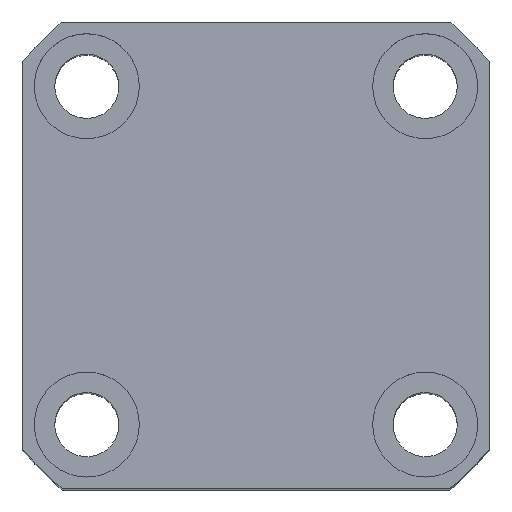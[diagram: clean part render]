
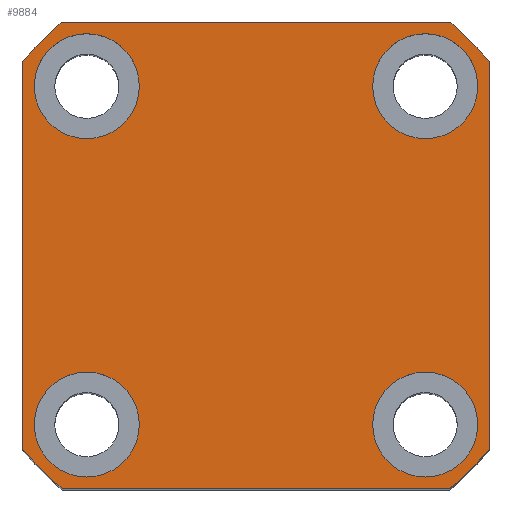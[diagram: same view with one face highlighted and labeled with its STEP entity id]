
A CAD part, top view. The second image highlights one B-rep face of the part: STEP entity #9884.
In plain terms, the highlighted planar face has unit normal (0, 0, 1).
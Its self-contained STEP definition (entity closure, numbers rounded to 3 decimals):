
#6 = VERTEX_POINT ( 'NONE', #3355 ) ;
#22 = CARTESIAN_POINT ( 'NONE',  ( 29., 29., 62.5 ) ) ;
#35 = EDGE_LOOP ( 'NONE', ( #9981, #488 ) ) ;
#105 = DIRECTION ( 'NONE',  ( 0., 0., 1. ) ) ;
#141 = FACE_BOUND ( 'NONE', #9442, .T. ) ;
#179 = AXIS2_PLACEMENT_3D ( 'NONE', #9712, #8794, #7146 ) ;
#207 = CIRCLE ( 'NONE', #5656, 52. ) ;
#334 = CIRCLE ( 'NONE', #1323, 9. ) ;
#397 = CARTESIAN_POINT ( 'NONE',  ( 0., 0., 62.5 ) ) ;
#465 = CIRCLE ( 'NONE', #3396, 9. ) ;
#473 = DIRECTION ( 'NONE',  ( 0., 0., 1. ) ) ;
#488 = ORIENTED_EDGE ( 'NONE', *, *, #4856, .F. ) ;
#666 = CIRCLE ( 'NONE', #179, 52. ) ;
#696 = CARTESIAN_POINT ( 'NONE',  ( -20., -29., 62.5 ) ) ;
#716 = DIRECTION ( 'NONE',  ( 1., 0., 0. ) ) ;
#769 = EDGE_CURVE ( 'NONE', #2032, #10755, #1658, .T. ) ;
#776 = FACE_BOUND ( 'NONE', #35, .T. ) ;
#826 = EDGE_LOOP ( 'NONE', ( #6822, #8242 ) ) ;
#959 = PLANE ( 'NONE',  #4179 ) ;
#978 = VECTOR ( 'NONE', #6187, 1000. ) ;
#997 = DIRECTION ( 'NONE',  ( 0., 0., 1. ) ) ;
#1051 = ORIENTED_EDGE ( 'NONE', *, *, #2056, .T. ) ;
#1088 = ORIENTED_EDGE ( 'NONE', *, *, #3420, .T. ) ;
#1120 = CARTESIAN_POINT ( 'NONE',  ( -33.226, -40., 62.5 ) ) ;
#1133 = EDGE_CURVE ( 'NONE', #7411, #6216, #465, .T. ) ;
#1192 = CARTESIAN_POINT ( 'NONE',  ( -29., 29., 62.5 ) ) ;
#1204 = LINE ( 'NONE', #1120, #6046 ) ;
#1323 = AXIS2_PLACEMENT_3D ( 'NONE', #9672, #2161, #10571 ) ;
#1331 = CARTESIAN_POINT ( 'NONE',  ( 40., -33.226, 62.5 ) ) ;
#1342 = EDGE_CURVE ( 'NONE', #5074, #2032, #6354, .T. ) ;
#1355 = DIRECTION ( 'NONE',  ( 1., 0., 0. ) ) ;
#1443 = VERTEX_POINT ( 'NONE', #4029 ) ;
#1463 = ORIENTED_EDGE ( 'NONE', *, *, #769, .T. ) ;
#1569 = ORIENTED_EDGE ( 'NONE', *, *, #7902, .T. ) ;
#1573 = CARTESIAN_POINT ( 'NONE',  ( -20., 29., 62.5 ) ) ;
#1658 = CIRCLE ( 'NONE', #5487, 52. ) ;
#1737 = CARTESIAN_POINT ( 'NONE',  ( -29., 29., 62.5 ) ) ;
#1805 = CARTESIAN_POINT ( 'NONE',  ( -38., -29., 62.5 ) ) ;
#1916 = CARTESIAN_POINT ( 'NONE',  ( 20., -29., 62.5 ) ) ;
#2032 = VERTEX_POINT ( 'NONE', #7880 ) ;
#2056 = EDGE_CURVE ( 'NONE', #10755, #6, #2675, .T. ) ;
#2137 = DIRECTION ( 'NONE',  ( 1., 0., 0. ) ) ;
#2149 = DIRECTION ( 'NONE',  ( -1., 0., 0. ) ) ;
#2161 = DIRECTION ( 'NONE',  ( 0., 0., 1. ) ) ;
#2193 = VERTEX_POINT ( 'NONE', #2207 ) ;
#2207 = CARTESIAN_POINT ( 'NONE',  ( 38., -29., 62.5 ) ) ;
#2230 = EDGE_CURVE ( 'NONE', #6216, #7411, #8967, .T. ) ;
#2281 = CARTESIAN_POINT ( 'NONE',  ( -29., -29., 62.5 ) ) ;
#2675 = LINE ( 'NONE', #7921, #10309 ) ;
#2710 = EDGE_CURVE ( 'NONE', #4925, #5448, #334, .T. ) ;
#2764 = CARTESIAN_POINT ( 'NONE',  ( 38., 29., 62.5 ) ) ;
#3254 = EDGE_CURVE ( 'NONE', #1443, #6378, #207, .T. ) ;
#3355 = CARTESIAN_POINT ( 'NONE',  ( -40., -33.226, 62.5 ) ) ;
#3396 = AXIS2_PLACEMENT_3D ( 'NONE', #5469, #473, #10443 ) ;
#3420 = EDGE_CURVE ( 'NONE', #6, #5250, #5685, .T. ) ;
#3521 = EDGE_LOOP ( 'NONE', ( #1463, #1051, #1088, #6015, #9950, #9794, #1569, #5687 ) ) ;
#3528 = CARTESIAN_POINT ( 'NONE',  ( 0., 0., 62.5 ) ) ;
#3578 = CIRCLE ( 'NONE', #9254, 9. ) ;
#3652 = AXIS2_PLACEMENT_3D ( 'NONE', #1192, #5335, #10482 ) ;
#3993 = CARTESIAN_POINT ( 'NONE',  ( -33.226, 40., 62.5 ) ) ;
#4029 = CARTESIAN_POINT ( 'NONE',  ( 33.226, -40., 62.5 ) ) ;
#4093 = EDGE_CURVE ( 'NONE', #9540, #2193, #5946, .T. ) ;
#4107 = EDGE_CURVE ( 'NONE', #2193, #9540, #3578, .T. ) ;
#4179 = AXIS2_PLACEMENT_3D ( 'NONE', #397, #4492, #6141 ) ;
#4199 = EDGE_CURVE ( 'NONE', #6378, #5575, #10005, .T. ) ;
#4208 = DIRECTION ( 'NONE',  ( 1., 0., 0. ) ) ;
#4265 = DIRECTION ( 'NONE',  ( 0., 0., 1. ) ) ;
#4481 = CARTESIAN_POINT ( 'NONE',  ( 0., 0., 62.5 ) ) ;
#4492 = DIRECTION ( 'NONE',  ( 0., 0., 1. ) ) ;
#4608 = CIRCLE ( 'NONE', #8071, 9. ) ;
#4628 = CARTESIAN_POINT ( 'NONE',  ( 40., 33.226, 62.5 ) ) ;
#4657 = DIRECTION ( 'NONE',  ( 0., 0., 1. ) ) ;
#4802 = ORIENTED_EDGE ( 'NONE', *, *, #2230, .F. ) ;
#4856 = EDGE_CURVE ( 'NONE', #7980, #8797, #4608, .T. ) ;
#4919 = VECTOR ( 'NONE', #2149, 1000. ) ;
#4925 = VERTEX_POINT ( 'NONE', #10557 ) ;
#5074 = VERTEX_POINT ( 'NONE', #8112 ) ;
#5098 = DIRECTION ( 'NONE',  ( 1., 0., 0. ) ) ;
#5168 = CARTESIAN_POINT ( 'NONE',  ( 29., -29., 62.5 ) ) ;
#5250 = VERTEX_POINT ( 'NONE', #10262 ) ;
#5304 = DIRECTION ( 'NONE',  ( 1., 0., 0. ) ) ;
#5335 = DIRECTION ( 'NONE',  ( 0., 0., 1. ) ) ;
#5350 = DIRECTION ( 'NONE',  ( 0., -1., 0. ) ) ;
#5448 = VERTEX_POINT ( 'NONE', #2764 ) ;
#5469 = CARTESIAN_POINT ( 'NONE',  ( -29., -29., 62.5 ) ) ;
#5487 = AXIS2_PLACEMENT_3D ( 'NONE', #6455, #9971, #716 ) ;
#5575 = VERTEX_POINT ( 'NONE', #4628 ) ;
#5656 = AXIS2_PLACEMENT_3D ( 'NONE', #3528, #4265, #9279 ) ;
#5685 = CIRCLE ( 'NONE', #8101, 52. ) ;
#5687 = ORIENTED_EDGE ( 'NONE', *, *, #1342, .T. ) ;
#5880 = FACE_OUTER_BOUND ( 'NONE', #3521, .T. ) ;
#5916 = DIRECTION ( 'NONE',  ( 0., 0., 1. ) ) ;
#5946 = CIRCLE ( 'NONE', #9889, 9. ) ;
#6015 = ORIENTED_EDGE ( 'NONE', *, *, #7214, .T. ) ;
#6046 = VECTOR ( 'NONE', #1355, 1000. ) ;
#6051 = DIRECTION ( 'NONE',  ( 1., 0., 0. ) ) ;
#6141 = DIRECTION ( 'NONE',  ( 1., 0., 0. ) ) ;
#6187 = DIRECTION ( 'NONE',  ( 0., 1., 0. ) ) ;
#6193 = ORIENTED_EDGE ( 'NONE', *, *, #2710, .F. ) ;
#6216 = VERTEX_POINT ( 'NONE', #1805 ) ;
#6267 = CARTESIAN_POINT ( 'NONE',  ( -40., 33.226, 62.5 ) ) ;
#6296 = EDGE_CURVE ( 'NONE', #8797, #7980, #9983, .T. ) ;
#6354 = LINE ( 'NONE', #3993, #4919 ) ;
#6378 = VERTEX_POINT ( 'NONE', #1331 ) ;
#6455 = CARTESIAN_POINT ( 'NONE',  ( 0., 0., 62.5 ) ) ;
#6822 = ORIENTED_EDGE ( 'NONE', *, *, #4107, .F. ) ;
#7146 = DIRECTION ( 'NONE',  ( 1., 0., 0. ) ) ;
#7214 = EDGE_CURVE ( 'NONE', #5250, #1443, #1204, .T. ) ;
#7411 = VERTEX_POINT ( 'NONE', #696 ) ;
#7599 = DIRECTION ( 'NONE',  ( 1., 0., 0. ) ) ;
#7880 = CARTESIAN_POINT ( 'NONE',  ( -33.226, 40., 62.5 ) ) ;
#7902 = EDGE_CURVE ( 'NONE', #5575, #5074, #666, .T. ) ;
#7921 = CARTESIAN_POINT ( 'NONE',  ( -40., 33.226, 62.5 ) ) ;
#7980 = VERTEX_POINT ( 'NONE', #8901 ) ;
#8071 = AXIS2_PLACEMENT_3D ( 'NONE', #1737, #5916, #7599 ) ;
#8079 = ORIENTED_EDGE ( 'NONE', *, *, #8358, .F. ) ;
#8101 = AXIS2_PLACEMENT_3D ( 'NONE', #4481, #10352, #5304 ) ;
#8112 = CARTESIAN_POINT ( 'NONE',  ( 33.226, 40., 62.5 ) ) ;
#8242 = ORIENTED_EDGE ( 'NONE', *, *, #4093, .F. ) ;
#8358 = EDGE_CURVE ( 'NONE', #5448, #4925, #10488, .T. ) ;
#8435 = ORIENTED_EDGE ( 'NONE', *, *, #1133, .F. ) ;
#8562 = DIRECTION ( 'NONE',  ( 0., 0., 1. ) ) ;
#8794 = DIRECTION ( 'NONE',  ( 0., 0., 1. ) ) ;
#8797 = VERTEX_POINT ( 'NONE', #1573 ) ;
#8901 = CARTESIAN_POINT ( 'NONE',  ( -38., 29., 62.5 ) ) ;
#8967 = CIRCLE ( 'NONE', #10745, 9. ) ;
#9254 = AXIS2_PLACEMENT_3D ( 'NONE', #5168, #8562, #5098 ) ;
#9279 = DIRECTION ( 'NONE',  ( 1., 0., 0. ) ) ;
#9305 = CARTESIAN_POINT ( 'NONE',  ( 29., -29., 62.5 ) ) ;
#9417 = FACE_BOUND ( 'NONE', #826, .T. ) ;
#9442 = EDGE_LOOP ( 'NONE', ( #8435, #4802 ) ) ;
#9519 = CARTESIAN_POINT ( 'NONE',  ( 40., 33.226, 62.5 ) ) ;
#9540 = VERTEX_POINT ( 'NONE', #1916 ) ;
#9672 = CARTESIAN_POINT ( 'NONE',  ( 29., 29., 62.5 ) ) ;
#9712 = CARTESIAN_POINT ( 'NONE',  ( 0., 0., 62.5 ) ) ;
#9794 = ORIENTED_EDGE ( 'NONE', *, *, #4199, .T. ) ;
#9884 = ADVANCED_FACE ( 'NONE', ( #9417, #141, #776, #10214, #5880 ), #959, .T. ) ;
#9889 = AXIS2_PLACEMENT_3D ( 'NONE', #9305, #105, #6051 ) ;
#9950 = ORIENTED_EDGE ( 'NONE', *, *, #3254, .T. ) ;
#9971 = DIRECTION ( 'NONE',  ( 0., 0., 1. ) ) ;
#9981 = ORIENTED_EDGE ( 'NONE', *, *, #6296, .F. ) ;
#9983 = CIRCLE ( 'NONE', #3652, 9. ) ;
#10005 = LINE ( 'NONE', #9519, #978 ) ;
#10214 = FACE_BOUND ( 'NONE', #10846, .T. ) ;
#10262 = CARTESIAN_POINT ( 'NONE',  ( -33.226, -40., 62.5 ) ) ;
#10309 = VECTOR ( 'NONE', #5350, 1000. ) ;
#10352 = DIRECTION ( 'NONE',  ( 0., 0., 1. ) ) ;
#10443 = DIRECTION ( 'NONE',  ( 1., 0., 0. ) ) ;
#10482 = DIRECTION ( 'NONE',  ( 1., 0., 0. ) ) ;
#10488 = CIRCLE ( 'NONE', #10853, 9. ) ;
#10557 = CARTESIAN_POINT ( 'NONE',  ( 20., 29., 62.5 ) ) ;
#10571 = DIRECTION ( 'NONE',  ( 1., 0., 0. ) ) ;
#10745 = AXIS2_PLACEMENT_3D ( 'NONE', #2281, #4657, #2137 ) ;
#10755 = VERTEX_POINT ( 'NONE', #6267 ) ;
#10846 = EDGE_LOOP ( 'NONE', ( #8079, #6193 ) ) ;
#10853 = AXIS2_PLACEMENT_3D ( 'NONE', #22, #997, #4208 ) ;
